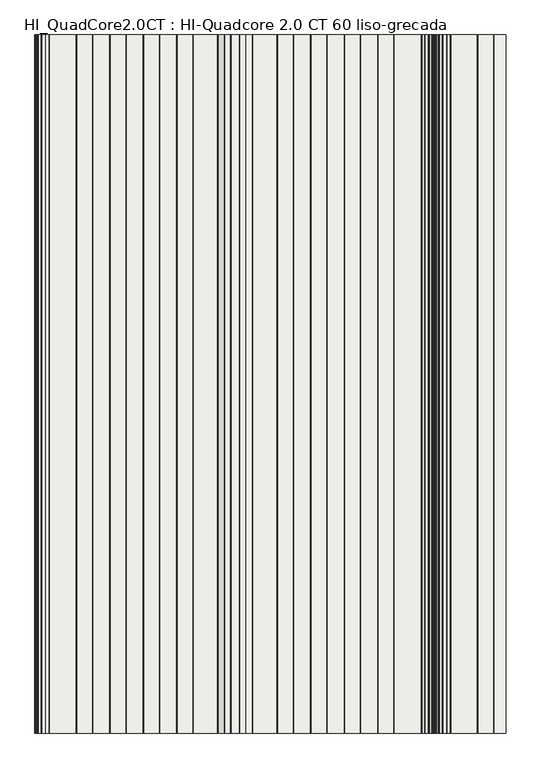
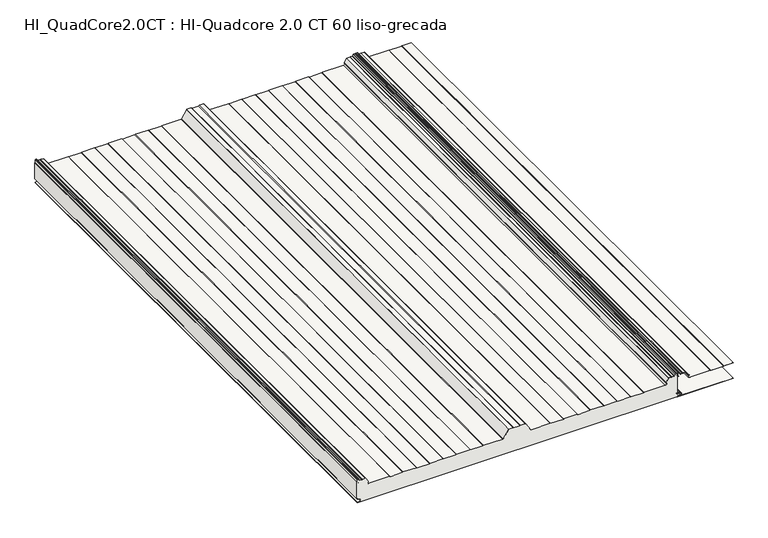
"""IFC4 building model written with IfcOpenShell, lengths in millimetres: slab geometry, HI_QuadCore2.0CT : HI-Quadcore 2.0 CT 60 liso-grecada."""

from ifc_helpers import new_model, si_unit, point, frame, frame_2d, origin, place, context, project, spatial, polyline, circle_curve, trimmed, segment, composite_curve, outline, extrude, source, transform, mapped, element, save
from ifc_brep_helpers import plane_surface, cylinder_surface, revolved_surface, advanced_brep


def hi_quadcore2_0ct_hi_quadcore_2_0_ct_60_liso_grecada_c3092838(model_context):
    return source(origin(), model_context, "Body", "SolidModel", [
        advanced_brep(
        [(1155.1475465, 0.0, 75.7425833), (1151.3824194, 0.0, 77.9163804), (1150.0, 0.0, 77.9163804), (1150.0, 0.0, 16.239302), (1157.510215, 0.0, 16.239302), (1157.510215, 0.0, 15.4391074), (1153.6125693, 0.0, 15.4391074), (1152.4319301, 0.0, 14.2584682), (1153.4276302, 0.0, 13.0866965), (1161.8278581, 0.0, 11.7547343), (1161.7995989, 0.0, 4.4809044), (1151.8467032, 0.0, 2.9844289), (1152.0100062, 0.0, 0.8), (2297.9590685, 0.0, 0.8), (2299.3391392, 0.0, 2.1800708), (2302.5664905, 0.0, 5.8294074), (2310.7843221, 0.0, 6.8264698), (2310.7843299, 0.0, 9.4135286), (2300.8450446, 0.0, 10.6192254), (2297.8324398, 0.0, 14.0237344), (2297.2282701, 0.0, 15.44), (2292.7624398, 0.0, 15.44), (2292.7624398, 0.0, 16.239302), (2300.0, 0.0, 16.239302), (2300.0, 0.0, 77.9163804), (2298.8824194, 0.0, 77.9163804), (2295.1172924, 0.0, 75.7425833), (2294.7172924, 0.0, 76.4354036), (2298.5824194, 0.0, 78.6669358), (2298.5824194, 0.0, 88.1), (2297.4824194, 0.0, 89.2), (2293.8888221, 0.0, 89.2), (2292.8725546, 0.0, 88.5209518), (2291.0157992, 0.0, 84.0383476), (2288.8631598, 0.0, 82.6), (2282.1371875, 0.0, 82.6), (2280.4324194, 0.0, 81.8110374), (2278.7276514, 0.0, 82.6), (2269.4004541, 0.0, 82.6), (2268.4939153, 0.0, 82.1230469), (2259.1558806, 0.0, 68.5361221), (2259.356723, 0.0, 67.0692788), (2260.3070878, 0.0, 66.2744554), (2257.4852773, 0.0, 59.2), (2181.3816122, 0.0, 59.2), (2179.6495614, 0.0, 58.2), (2134.6152775, 0.0, 58.2), (2132.8832267, 0.0, 59.2), (2085.3816122, 0.0, 59.2), (2083.6495614, 0.0, 58.2), (2038.6152775, 0.0, 58.2), (2036.8832267, 0.0, 59.2), (1989.3816122, 0.0, 59.2), (1987.6495614, 0.0, 58.2), (1942.6152775, 0.0, 58.2), (1940.8832267, 0.0, 59.2), (1893.3816122, 0.0, 59.2), (1891.6495614, 0.0, 58.2), (1846.6152775, 0.0, 58.2), (1844.8832267, 0.0, 59.2), (1775.9029123, 0.0, 59.2), (1773.9344839, 0.0, 60.2833287), (1755.9445057, 0.0, 88.6885573), (1755.0152048, 0.0, 89.2), (1738.8816122, 0.0, 89.2), (1736.283536, 0.0, 87.7), (1713.9813029, 0.0, 87.7), (1711.3832267, 0.0, 89.2), (1695.2496341, 0.0, 89.2), (1694.3203331, 0.0, 88.6885573), (1676.330355, 0.0, 60.2833287), (1674.3619266, 0.0, 59.2), (1605.3816122, 0.0, 59.2), (1603.6495614, 0.0, 58.2), (1558.6152775, 0.0, 58.2), (1556.8832267, 0.0, 59.2), (1509.3816122, 0.0, 59.2), (1507.6495614, 0.0, 58.2), (1462.6152775, 0.0, 58.2), (1460.8832267, 0.0, 59.2), (1413.3816122, 0.0, 59.2), (1411.6495614, 0.0, 58.2), (1366.6152775, 0.0, 58.2), (1364.8832267, 0.0, 59.2), (1317.3816122, 0.0, 59.2), (1315.6495614, 0.0, 58.2), (1270.6152775, 0.0, 58.2), (1268.8832267, 0.0, 59.2), (1192.7795617, 0.0, 59.2), (1189.9577511, 0.0, 66.2744555), (1190.9081159, 0.0, 67.0692788), (1191.1089583, 0.0, 68.5361221), (1181.7709236, 0.0, 82.1230469), (1180.8643848, 0.0, 82.6), (1171.5371875, 0.0, 82.6), (1169.8324194, 0.0, 81.8110374), (1168.1276514, 0.0, 82.6), (1161.4016791, 0.0, 82.6), (1159.2490397, 0.0, 84.0383476), (1157.3922843, 0.0, 88.5209518), (1156.3760168, 0.0, 89.2), (1152.7824194, 0.0, 89.2), (1151.6824194, 0.0, 88.1), (1151.6824194, 0.0, 78.6669358), (1155.5475465, 0.0, 76.4354036), (1155.1475465, 2000.0, 75.7425833), (1155.5475465, 2000.0, 76.4354036), (1151.6824194, 2000.0, 78.6669358), (1151.6824194, 2000.0, 88.1), (1152.7824194, 2000.0, 89.2), (1156.3760168, 2000.0, 89.2), (1157.3922843, 2000.0, 88.5209518), (1159.2490397, 2000.0, 84.0383476), (1161.4016791, 2000.0, 82.6), (1168.1276514, 2000.0, 82.6), (1169.8324194, 2000.0, 81.8110374), (1171.5371875, 2000.0, 82.6), (1180.8643848, 2000.0, 82.6), (1181.7709236, 2000.0, 82.1230469), (1191.1089583, 2000.0, 68.5361221), (1190.9081159, 2000.0, 67.0692788), (1189.9577511, 2000.0, 66.2744555), (1192.7795617, 2000.0, 59.2), (1268.8832267, 2000.0, 59.2), (1270.6152775, 2000.0, 58.2), (1315.6495614, 2000.0, 58.2), (1317.3816122, 2000.0, 59.2), (1364.8832267, 2000.0, 59.2), (1366.6152775, 2000.0, 58.2), (1411.6495614, 2000.0, 58.2), (1413.3816122, 2000.0, 59.2), (1460.8832267, 2000.0, 59.2), (1462.6152775, 2000.0, 58.2), (1507.6495614, 2000.0, 58.2), (1509.3816122, 2000.0, 59.2), (1556.8832267, 2000.0, 59.2), (1558.6152775, 2000.0, 58.2), (1603.6495614, 2000.0, 58.2), (1605.3816122, 2000.0, 59.2), (1674.3619266, 2000.0, 59.2), (1676.330355, 2000.0, 60.2833287), (1694.3203331, 2000.0, 88.6885573), (1695.2496341, 2000.0, 89.2), (1711.3832267, 2000.0, 89.2), (1713.9813029, 2000.0, 87.7), (1736.283536, 2000.0, 87.7), (1738.8816122, 2000.0, 89.2), (1755.0152048, 2000.0, 89.2), (1755.9445057, 2000.0, 88.6885573), (1773.9344839, 2000.0, 60.2833287), (1775.9029123, 2000.0, 59.2), (1844.8832267, 2000.0, 59.2), (1846.6152775, 2000.0, 58.2), (1891.6495614, 2000.0, 58.2), (1893.3816122, 2000.0, 59.2), (1940.8832267, 2000.0, 59.2), (1942.6152775, 2000.0, 58.2), (1987.6495614, 2000.0, 58.2), (1989.3816122, 2000.0, 59.2), (2036.8832267, 2000.0, 59.2), (2038.6152775, 2000.0, 58.2), (2083.6495614, 2000.0, 58.2), (2085.3816122, 2000.0, 59.2), (2132.8832267, 2000.0, 59.2), (2134.6152775, 2000.0, 58.2), (2179.6495614, 2000.0, 58.2), (2181.3816122, 2000.0, 59.2), (2257.4852773, 2000.0, 59.2), (2260.3070878, 2000.0, 66.2744554), (2259.356723, 2000.0, 67.0692788), (2259.1558806, 2000.0, 68.5361221), (2268.4939153, 2000.0, 82.1230469), (2269.4004541, 2000.0, 82.6), (2278.7276514, 2000.0, 82.6), (2280.4324194, 2000.0, 81.8110374), (2282.1371875, 2000.0, 82.6), (2288.8631598, 2000.0, 82.6), (2291.0157992, 2000.0, 84.0383476), (2292.8725546, 2000.0, 88.5209518), (2293.8888221, 2000.0, 89.2), (2297.4824194, 2000.0, 89.2), (2298.5824194, 2000.0, 88.1), (2298.5824194, 2000.0, 78.6669358), (2294.7172924, 2000.0, 76.4354036), (2295.1172924, 2000.0, 75.7425833), (2298.8824194, 2000.0, 77.9163804), (2300.0, 2000.0, 77.9163804), (2300.0, 2000.0, 16.239302), (2292.7624398, 2000.0, 16.239302), (2292.7624398, 2000.0, 15.44), (2297.2282701, 2000.0, 15.44), (2297.8324398, 2000.0, 14.0237344), (2300.8450446, 2000.0, 10.6192254), (2310.7843299, 2000.0, 9.4135286), (2310.7843221, 2000.0, 6.8264698), (2302.5664905, 2000.0, 5.8294074), (2299.3391392, 2000.0, 2.1800708), (2297.9590685, 2000.0, 0.8), (1152.0100062, 2000.0, 0.8), (1151.8467032, 2000.0, 2.9844289), (1161.7995989, 2000.0, 4.4809044), (1161.8278581, 2000.0, 11.7547343), (1153.4273037, 2000.0, 13.0846342), (1152.4319301, 2000.0, 14.2584682), (1153.6125693, 2000.0, 15.4391074), (1157.510215, 2000.0, 15.4391074), (1157.510215, 2000.0, 16.239302), (1150.0, 2000.0, 16.239302), (1150.0, 2000.0, 77.9163804), (1151.3824194, 2000.0, 77.9163804)],
        [
            (0, 1),
            (1, 2),
            (2, 3),
            (3, 4),
            (4, 5),
            (5, 6),
            (6, 7, circle_curve(frame((1153.6125693, 0.0, 14.2584682), z_axis=(0.0, -1.0, 0.0), x_axis=(1.0, 0.0, 0.0)), 1.1806391)),
            (7, 8, circle_curve(frame((1153.6121809, 0.0, 14.2524448), z_axis=(0.0, -1.0, 0.0), x_axis=(1.0, 0.0, 0.0)), 1.1802661)),
            (8, 9),
            (9, 10, circle_curve(frame((1161.2524398, 0.0, 8.12), z_axis=(0.0, 1.0, 0.0), x_axis=(1.0, 0.0, 0.0)), 3.68)),
            (10, 11),
            (11, 12, circle_curve(frame((1152.0100062, 0.0, 1.8983185), z_axis=(0.0, -1.0, 0.0), x_axis=(1.0, 0.0, 0.0)), 1.0983185)),
            (12, 13),
            (13, 14, circle_curve(frame((2297.9590685, 0.0, 2.1800708), z_axis=(0.0, -1.0, 0.0), x_axis=(1.0, 0.0, 0.0)), 1.3800708)),
            (14, 15, circle_curve(frame((2303.0160638, 0.0, 2.1800708), z_axis=(0.0, 1.0, 0.0), x_axis=(1.0, 0.0, 0.0)), 3.6769246)),
            (15, 16),
            (16, 17, circle_curve(frame((2310.5224398, 0.0, 8.12), z_axis=(0.0, -1.0, 0.0), x_axis=(1.0, 0.0, 0.0)), 1.3197737)),
            (17, 18),
            (18, 19, circle_curve(frame((2301.2624398, 0.0, 14.0237344), z_axis=(0.0, 1.0, 0.0), x_axis=(1.0, 0.0, 0.0)), 3.43)),
            (19, 20, circle_curve(frame((2295.8703839, 0.0, 14.0237344), z_axis=(0.0, -1.0, 0.0), x_axis=(1.0, 0.0, 0.0)), 1.9620559)),
            (20, 21),
            (21, 22),
            (22, 23),
            (23, 24),
            (24, 25),
            (25, 26),
            (26, 27),
            (27, 28),
            (28, 29),
            (29, 30, circle_curve(frame((2297.4824194, 0.0, 88.1), z_axis=(0.0, -1.0, 0.0), x_axis=(1.0, 0.0, 0.0)), 1.1)),
            (30, 31),
            (31, 32, circle_curve(frame((2293.8888221, 0.0, 88.1), z_axis=(0.0, -1.0, 0.0), x_axis=(1.0, 0.0, 0.0)), 1.1)),
            (32, 33),
            (33, 34, circle_curve(frame((2288.8631598, 0.0, 84.93), z_axis=(0.0, 1.0, 0.0), x_axis=(1.0, 0.0, 0.0)), 2.33)),
            (34, 35),
            (35, 36),
            (36, 37),
            (37, 38),
            (38, 39, circle_curve(frame((2269.4004541, 0.0, 81.5), z_axis=(0.0, -1.0, 0.0), x_axis=(1.0, 0.0, 0.0)), 1.1)),
            (39, 40),
            (40, 41, circle_curve(frame((2260.0624194, 0.0, 67.9130753), z_axis=(0.0, -1.0, 0.0), x_axis=(1.0, 0.0, 0.0)), 1.1)),
            (41, 42),
            (42, 43, circle_curve(frame((2257.4852773, 0.0, 63.3), z_axis=(0.0, 1.0, 0.0), x_axis=(1.0, 0.0, 0.0)), 4.1)),
            (43, 44),
            (44, 45),
            (45, 46),
            (46, 47),
            (47, 48),
            (48, 49),
            (49, 50),
            (50, 51),
            (51, 52),
            (52, 53),
            (53, 54),
            (54, 55),
            (55, 56),
            (56, 57),
            (57, 58),
            (58, 59),
            (59, 60),
            (60, 61, circle_curve(frame((1775.9029123, 0.0, 61.53), z_axis=(0.0, 1.0, 0.0), x_axis=(1.0, 0.0, 0.0)), 2.33)),
            (61, 62),
            (62, 63, circle_curve(frame((1755.0152048, 0.0, 88.1), z_axis=(0.0, -1.0, 0.0), x_axis=(1.0, 0.0, 0.0)), 1.1)),
            (63, 64),
            (64, 65),
            (65, 66),
            (66, 67),
            (67, 68),
            (68, 69, circle_curve(frame((1695.2496341, 0.0, 88.1), z_axis=(0.0, -1.0, 0.0), x_axis=(1.0, 0.0, 0.0)), 1.1)),
            (69, 70),
            (70, 71, circle_curve(frame((1674.3619266, 0.0, 61.53), z_axis=(0.0, 1.0, 0.0), x_axis=(1.0, 0.0, 0.0)), 2.33)),
            (71, 72),
            (72, 73),
            (73, 74),
            (74, 75),
            (75, 76),
            (76, 77),
            (77, 78),
            (78, 79),
            (79, 80),
            (80, 81),
            (81, 82),
            (82, 83),
            (83, 84),
            (84, 85),
            (85, 86),
            (86, 87),
            (87, 88),
            (88, 89, circle_curve(frame((1192.7795617, 0.0, 63.3), z_axis=(0.0, 1.0, 0.0), x_axis=(1.0, 0.0, 0.0)), 4.1)),
            (89, 90),
            (90, 91, circle_curve(frame((1190.2024195, 0.0, 67.9130752), z_axis=(0.0, -1.0, 0.0), x_axis=(1.0, 0.0, 0.0)), 1.1)),
            (91, 92),
            (92, 93, circle_curve(frame((1180.8643848, 0.0, 81.5), z_axis=(0.0, -1.0, 0.0), x_axis=(1.0, 0.0, 0.0)), 1.1)),
            (93, 94),
            (94, 95),
            (95, 96),
            (96, 97),
            (97, 98, circle_curve(frame((1161.4016791, 0.0, 84.93), z_axis=(0.0, 1.0, 0.0), x_axis=(1.0, 0.0, 0.0)), 2.33)),
            (98, 99),
            (99, 100, circle_curve(frame((1156.3760168, 0.0, 88.1), z_axis=(0.0, -1.0, 0.0), x_axis=(1.0, 0.0, 0.0)), 1.1)),
            (100, 101),
            (101, 102, circle_curve(frame((1152.7824194, 0.0, 88.1), z_axis=(0.0, -1.0, 0.0), x_axis=(1.0, 0.0, 0.0)), 1.1)),
            (102, 103),
            (103, 104),
            (104, 0),
            (105, 106),
            (106, 107),
            (107, 108),
            (108, 109, circle_curve(frame((1152.7824194, 2000.0, 88.1), z_axis=(0.0, 1.0, 0.0), x_axis=(1.0, 0.0, 0.0)), 1.1)),
            (109, 110),
            (110, 111, circle_curve(frame((1156.3760168, 2000.0, 88.1), z_axis=(0.0, 1.0, 0.0), x_axis=(1.0, 0.0, 0.0)), 1.1)),
            (111, 112),
            (112, 113, circle_curve(frame((1161.4016791, 2000.0, 84.93), z_axis=(0.0, -1.0, 0.0), x_axis=(1.0, 0.0, 0.0)), 2.33)),
            (113, 114),
            (114, 115),
            (115, 116),
            (116, 117),
            (117, 118, circle_curve(frame((1180.8643848, 2000.0, 81.5), z_axis=(0.0, 1.0, 0.0), x_axis=(1.0, 0.0, 0.0)), 1.1)),
            (118, 119),
            (119, 120, circle_curve(frame((1190.2024195, 2000.0, 67.9130752), z_axis=(0.0, 1.0, 0.0), x_axis=(1.0, 0.0, 0.0)), 1.1)),
            (120, 121),
            (121, 122, circle_curve(frame((1192.7795617, 2000.0, 63.3), z_axis=(0.0, -1.0, 0.0), x_axis=(1.0, 0.0, 0.0)), 4.1)),
            (122, 123),
            (123, 124),
            (124, 125),
            (125, 126),
            (126, 127),
            (127, 128),
            (128, 129),
            (129, 130),
            (130, 131),
            (131, 132),
            (132, 133),
            (133, 134),
            (134, 135),
            (135, 136),
            (136, 137),
            (137, 138),
            (138, 139),
            (139, 140, circle_curve(frame((1674.3619266, 2000.0, 61.53), z_axis=(0.0, -1.0, 0.0), x_axis=(1.0, 0.0, 0.0)), 2.33)),
            (140, 141),
            (141, 142, circle_curve(frame((1695.2496341, 2000.0, 88.1), z_axis=(0.0, 1.0, 0.0), x_axis=(1.0, 0.0, 0.0)), 1.1)),
            (142, 143),
            (143, 144),
            (144, 145),
            (145, 146),
            (146, 147),
            (147, 148, circle_curve(frame((1755.0152048, 2000.0, 88.1), z_axis=(0.0, 1.0, 0.0), x_axis=(1.0, 0.0, 0.0)), 1.1)),
            (148, 149),
            (149, 150, circle_curve(frame((1775.9029123, 2000.0, 61.53), z_axis=(0.0, -1.0, 0.0), x_axis=(1.0, 0.0, 0.0)), 2.33)),
            (150, 151),
            (151, 152),
            (152, 153),
            (153, 154),
            (154, 155),
            (155, 156),
            (156, 157),
            (157, 158),
            (158, 159),
            (159, 160),
            (160, 161),
            (161, 162),
            (162, 163),
            (163, 164),
            (164, 165),
            (165, 166),
            (166, 167),
            (167, 168, circle_curve(frame((2257.4852773, 2000.0, 63.3), z_axis=(0.0, -1.0, 0.0), x_axis=(1.0, 0.0, 0.0)), 4.1)),
            (168, 169),
            (169, 170, circle_curve(frame((2260.0624194, 2000.0, 67.9130753), z_axis=(0.0, 1.0, 0.0), x_axis=(1.0, 0.0, 0.0)), 1.1)),
            (170, 171),
            (171, 172, circle_curve(frame((2269.4004541, 2000.0, 81.5), z_axis=(0.0, 1.0, 0.0), x_axis=(1.0, 0.0, 0.0)), 1.1)),
            (172, 173),
            (173, 174),
            (174, 175),
            (175, 176),
            (176, 177, circle_curve(frame((2288.8631598, 2000.0, 84.93), z_axis=(0.0, -1.0, 0.0), x_axis=(1.0, 0.0, 0.0)), 2.33)),
            (177, 178),
            (178, 179, circle_curve(frame((2293.8888221, 2000.0, 88.1), z_axis=(0.0, 1.0, 0.0), x_axis=(1.0, 0.0, 0.0)), 1.1)),
            (179, 180),
            (180, 181, circle_curve(frame((2297.4824194, 2000.0, 88.1), z_axis=(0.0, 1.0, 0.0), x_axis=(1.0, 0.0, 0.0)), 1.1)),
            (181, 182),
            (182, 183),
            (183, 184),
            (184, 185),
            (185, 186),
            (186, 187),
            (187, 188),
            (188, 189),
            (189, 190),
            (190, 191, circle_curve(frame((2295.8703839, 2000.0, 14.0237344), z_axis=(0.0, 1.0, 0.0), x_axis=(1.0, 0.0, 0.0)), 1.9620559)),
            (191, 192, circle_curve(frame((2301.2624398, 2000.0, 14.0237344), z_axis=(0.0, -1.0, 0.0), x_axis=(1.0, 0.0, 0.0)), 3.43)),
            (192, 193),
            (193, 194, circle_curve(frame((2310.5224398, 2000.0, 8.12), z_axis=(0.0, 1.0, 0.0), x_axis=(1.0, 0.0, 0.0)), 1.3197737)),
            (194, 195),
            (195, 196, circle_curve(frame((2303.0160638, 2000.0, 2.1800708), z_axis=(0.0, -1.0, 0.0), x_axis=(1.0, 0.0, 0.0)), 3.6769246)),
            (196, 197, circle_curve(frame((2297.9590685, 2000.0, 2.1800708), z_axis=(0.0, 1.0, 0.0), x_axis=(1.0, 0.0, 0.0)), 1.3800708)),
            (197, 198),
            (198, 199, circle_curve(frame((1152.0100062, 2000.0, 1.8983185), z_axis=(0.0, 1.0, 0.0), x_axis=(1.0, 0.0, 0.0)), 1.0983185)),
            (199, 200),
            (200, 201, circle_curve(frame((1161.2524398, 2000.0, 8.12), z_axis=(0.0, -1.0, 0.0), x_axis=(1.0, 0.0, 0.0)), 3.68)),
            (201, 202),
            (202, 203, circle_curve(frame((1153.6121809, 2000.0, 14.2524448), z_axis=(0.0, 1.0, 0.0), x_axis=(1.0, 0.0, 0.0)), 1.1802661)),
            (203, 204, circle_curve(frame((1153.6125693, 2000.0, 14.2584682), z_axis=(0.0, 1.0, 0.0), x_axis=(1.0, 0.0, 0.0)), 1.1806391)),
            (204, 205),
            (205, 206),
            (206, 207),
            (207, 208),
            (208, 209),
            (209, 105),
            (0, 105),
            (209, 1),
            (208, 2),
            (207, 3),
            (186, 24),
            (23, 187),
            (185, 25),
            (184, 26),
            (183, 27),
            (182, 28),
            (181, 29),
            (180, 30),
            (179, 31),
            (178, 32),
            (177, 33),
            (176, 34),
            (175, 35),
            (174, 36),
            (173, 37),
            (172, 38),
            (171, 39),
            (170, 40),
            (169, 41),
            (168, 42),
            (167, 43),
            (166, 44),
            (165, 45),
            (164, 46),
            (163, 47),
            (162, 48),
            (161, 49),
            (160, 50),
            (159, 51),
            (158, 52),
            (157, 53),
            (156, 54),
            (155, 55),
            (154, 56),
            (153, 57),
            (152, 58),
            (151, 59),
            (150, 60),
            (149, 61),
            (148, 62),
            (147, 63),
            (146, 64),
            (145, 65),
            (144, 66),
            (143, 67),
            (142, 68),
            (141, 69),
            (140, 70),
            (139, 71),
            (138, 72),
            (137, 73),
            (136, 74),
            (135, 75),
            (134, 76),
            (133, 77),
            (132, 78),
            (131, 79),
            (130, 80),
            (129, 81),
            (128, 82),
            (127, 83),
            (126, 84),
            (125, 85),
            (124, 86),
            (123, 87),
            (122, 88),
            (121, 89),
            (120, 90),
            (119, 91),
            (118, 92),
            (117, 93),
            (116, 94),
            (115, 95),
            (114, 96),
            (113, 97),
            (112, 98),
            (111, 99),
            (110, 100),
            (109, 101),
            (108, 102),
            (107, 103),
            (106, 104),
            (22, 188),
            (206, 4),
            (205, 5),
            (204, 6),
            (203, 7),
            (202, 8),
            (201, 9),
            (200, 10),
            (199, 11),
            (198, 12),
            (197, 13),
            (196, 14),
            (195, 15),
            (194, 16),
            (193, 17),
            (192, 18),
            (191, 19),
            (190, 20),
            (189, 21),
        ],
        [
            plane_surface(frame((1151.3824194, 0.0, 77.9163804), z_axis=(0.0, -1.0, 0.0), x_axis=(-0.866025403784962, 0.0, 0.4999999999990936))),
            plane_surface(frame((1151.3824194, 2000.0, 77.9163804), z_axis=(0.0, 1.0, 0.0), x_axis=(0.866025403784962, 0.0, -0.4999999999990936))),
            plane_surface(frame((1155.1475465, 0.0, 75.7425833), z_axis=(0.4999999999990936, 0.0, 0.866025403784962), x_axis=(0.0, 1.0, 0.0))),
            plane_surface(frame((1151.3824194, 0.0, 77.9163804), z_axis=(0.0, 0.0, 1.0), x_axis=(0.0, 1.0, 0.0))),
            plane_surface(frame((1150.0, 0.0, 77.9163804), z_axis=(-1.0, 0.0, 0.0), x_axis=(0.0, 1.0, 0.0))),
            plane_surface(frame((2300.0, 0.0, 50.0), z_axis=(1.0, 0.0, 0.0), x_axis=(0.0, 1.0, 0.0))),
            plane_surface(frame((2300.0, 0.0, 77.9163804), z_axis=(0.0, 0.0, 1.0), x_axis=(0.0, 1.0, 0.0))),
            plane_surface(frame((2298.8824194, 0.0, 77.9163804), z_axis=(-0.4999999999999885, 0.0, 0.8660254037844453), x_axis=(0.0, 1.0, 0.0))),
            plane_surface(frame((2295.1172924, 0.0, 75.7425833), z_axis=(0.8660254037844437, 0.0, 0.49999999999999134), x_axis=(0.0, 1.0, 0.0))),
            plane_surface(frame((2294.7172924, 0.0, 76.4354036), z_axis=(0.4999999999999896, 0.0, -0.8660254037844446), x_axis=(0.0, 1.0, 0.0))),
            plane_surface(frame((2298.5824194, 0.0, 78.6669358), z_axis=(1.0, 0.0, 0.0), x_axis=(0.0, 1.0, 0.0))),
            cylinder_surface(frame((2297.4824194, 2000.0, 88.1), z_axis=(0.0, -1.0, 0.0), x_axis=(1.0, 0.0, 0.0)), 1.1),
            plane_surface(frame((2297.4824194, 0.0, 89.2), z_axis=(0.0, 0.0, 1.0), x_axis=(0.0, 1.0, 0.0))),
            cylinder_surface(frame((2293.8888221, 2000.0, 88.1), z_axis=(0.0, -1.0, 0.0), x_axis=(1.0, 0.0, 0.0)), 1.1),
            plane_surface(frame((2292.8725546, 0.0, 88.5209518), z_axis=(-0.9238795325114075, 0.0, 0.3826834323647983), x_axis=(0.0, 1.0, 0.0))),
            revolved_surface(polyline([(2291.1931598, 2000.0, 84.93), (2291.1931598, 0.0, 84.93)]), (2288.8631598, 2000.0, 84.93), (0.0, 1.0, 0.0)),
            plane_surface(frame((2288.8631598, 0.0, 82.6), z_axis=(0.0, 0.0, 1.0), x_axis=(0.0, 1.0, 0.0))),
            plane_surface(frame((2282.1371875, 0.0, 82.6), z_axis=(-0.4199999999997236, 0.0, 0.9075241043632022), x_axis=(0.0, 1.0, 0.0))),
            plane_surface(frame((2280.4324194, 0.0, 81.8110374), z_axis=(0.42000000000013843, 0.0, 0.9075241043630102), x_axis=(0.0, 1.0, 0.0))),
            plane_surface(frame((2278.7276514, 0.0, 82.6), z_axis=(0.0, 0.0, 1.0), x_axis=(0.0, 1.0, 0.0))),
            cylinder_surface(frame((2269.4004541, 2000.0, 81.5), z_axis=(0.0, -1.0, 0.0), x_axis=(1.0, 0.0, 0.0)), 1.1),
            plane_surface(frame((2268.4939153, 0.0, 82.1230469), z_axis=(-0.824126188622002, 0.0, 0.5664062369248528), x_axis=(0.0, 1.0, 0.0))),
            cylinder_surface(frame((2260.0624194, 2000.0, 67.9130753), z_axis=(0.0, -1.0, 0.0), x_axis=(1.0, 0.0, 0.0)), 1.1),
            plane_surface(frame((2259.356723, 0.0, 67.0692788), z_axis=(-0.6415422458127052, 0.0, -0.7670877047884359), x_axis=(0.0, 1.0, 0.0))),
            revolved_surface(polyline([(2261.5852772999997, 2000.0, 63.3), (2261.5852772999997, 0.0, 63.3)]), (2257.4852773, 2000.0, 63.3), (0.0, 1.0, 0.0)),
            plane_surface(frame((2257.4852773, 0.0, 59.2), z_axis=(0.0, 0.0, 1.0), x_axis=(0.0, 1.0, 0.0))),
            plane_surface(frame((2181.3816122, 0.0, 59.2), z_axis=(-0.4999999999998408, 0.0, 0.8660254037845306), x_axis=(0.0, 1.0, 0.0))),
            plane_surface(frame((2179.6495614, 0.0, 58.2), z_axis=(0.0, 0.0, 1.0), x_axis=(0.0, 1.0, 0.0))),
            plane_surface(frame((2134.6152775, 0.0, 58.2), z_axis=(0.4999999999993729, 0.0, 0.8660254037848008), x_axis=(0.0, 1.0, 0.0))),
            plane_surface(frame((2132.8832267, 0.0, 59.2), z_axis=(0.0, 0.0, 1.0), x_axis=(0.0, 1.0, 0.0))),
            plane_surface(frame((2085.3816122, 0.0, 59.2), z_axis=(-0.49999999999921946, 0.0, 0.8660254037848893), x_axis=(0.0, 1.0, 0.0))),
            plane_surface(frame((2083.6495614, 0.0, 58.2), z_axis=(0.0, 0.0, 1.0), x_axis=(0.0, 1.0, 0.0))),
            plane_surface(frame((2038.6152775, 0.0, 58.2), z_axis=(0.4999999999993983, 0.0, 0.8660254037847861), x_axis=(0.0, 1.0, 0.0))),
            plane_surface(frame((2036.8832267, 0.0, 59.2), z_axis=(0.0, 0.0, 1.0), x_axis=(0.0, 1.0, 0.0))),
            plane_surface(frame((1989.3816122, 0.0, 59.2), z_axis=(-0.49999999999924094, 0.0, 0.866025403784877), x_axis=(0.0, 1.0, 0.0))),
            plane_surface(frame((1987.6495614, 0.0, 58.2), z_axis=(0.0, 0.0, 1.0), x_axis=(0.0, 1.0, 0.0))),
            plane_surface(frame((1942.6152775, 0.0, 58.2), z_axis=(0.49999999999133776, 0.0, 0.8660254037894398), x_axis=(0.0, 1.0, 0.0))),
            plane_surface(frame((1940.8832267, 0.0, 59.2), z_axis=(0.0, 0.0, 1.0), x_axis=(0.0, 1.0, 0.0))),
            plane_surface(frame((1893.3816122, 0.0, 59.2), z_axis=(-0.500000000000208, 0.0, 0.8660254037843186), x_axis=(0.0, 1.0, 0.0))),
            plane_surface(frame((1891.6495614, 0.0, 58.2), z_axis=(0.0, 0.0, 1.0), x_axis=(0.0, 1.0, 0.0))),
            plane_surface(frame((1846.6152775, 0.0, 58.2), z_axis=(0.5000000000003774, 0.0, 0.8660254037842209), x_axis=(0.0, 1.0, 0.0))),
            plane_surface(frame((1844.8832267, 0.0, 59.2), z_axis=(0.0, 0.0, 1.0), x_axis=(0.0, 1.0, 0.0))),
            revolved_surface(polyline([(1778.2329123, 2000.0, 61.53), (1778.2329123, 0.0, 61.53)]), (1775.9029123, 2000.0, 61.53), (0.0, 1.0, 0.0)),
            plane_surface(frame((1773.9344839, 0.0, 60.2833287), z_axis=(0.8448190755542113, 0.0, 0.535052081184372), x_axis=(0.0, 1.0, 0.0))),
            cylinder_surface(frame((1755.0152048, 2000.0, 88.1), z_axis=(0.0, -1.0, 0.0), x_axis=(1.0, 0.0, 0.0)), 1.1),
            plane_surface(frame((1755.0152048, 0.0, 89.2), z_axis=(0.0, 0.0, 1.0), x_axis=(0.0, 1.0, 0.0))),
            plane_surface(frame((1738.8816122, 0.0, 89.2), z_axis=(-0.4999999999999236, 0.0, 0.8660254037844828), x_axis=(0.0, 1.0, 0.0))),
            plane_surface(frame((1736.283536, 0.0, 87.7), z_axis=(0.0, 0.0, 1.0), x_axis=(0.0, 1.0, 0.0))),
            plane_surface(frame((1713.9813029, 0.0, 87.7), z_axis=(0.5000000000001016, 0.0, 0.86602540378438), x_axis=(0.0, 1.0, 0.0))),
            plane_surface(frame((1711.3832267, 0.0, 89.2), z_axis=(0.0, 0.0, 1.0), x_axis=(0.0, 1.0, 0.0))),
            cylinder_surface(frame((1695.2496341, 2000.0, 88.1), z_axis=(0.0, -1.0, 0.0), x_axis=(1.0, 0.0, 0.0)), 1.1),
            plane_surface(frame((1694.3203331, 0.0, 88.6885573), z_axis=(-0.8448190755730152, 0.0, 0.5350520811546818), x_axis=(0.0, 1.0, 0.0))),
            revolved_surface(polyline([(1676.6919266, 2000.0, 61.53), (1676.6919266, 0.0, 61.53)]), (1674.3619266, 2000.0, 61.53), (0.0, 1.0, 0.0)),
            plane_surface(frame((1674.3619266, 0.0, 59.2), z_axis=(0.0, 0.0, 1.0), x_axis=(0.0, 1.0, 0.0))),
            plane_surface(frame((1605.3816122, 0.0, 59.2), z_axis=(-0.5000000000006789, 0.0, 0.8660254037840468), x_axis=(0.0, 1.0, 0.0))),
            plane_surface(frame((1603.6495614, 0.0, 58.2), z_axis=(0.0, 0.0, 1.0), x_axis=(0.0, 1.0, 0.0))),
            plane_surface(frame((1558.6152775, 0.0, 58.2), z_axis=(0.4999999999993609, 0.0, 0.8660254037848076), x_axis=(0.0, 1.0, 0.0))),
            plane_surface(frame((1556.8832267, 0.0, 59.2), z_axis=(0.0, 0.0, 1.0), x_axis=(0.0, 1.0, 0.0))),
            plane_surface(frame((1509.3816122, 0.0, 59.2), z_axis=(-0.5000000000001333, 0.0, 0.8660254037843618), x_axis=(0.0, 1.0, 0.0))),
            plane_surface(frame((1507.6495614, 0.0, 58.2), z_axis=(0.0, 0.0, 1.0), x_axis=(0.0, 1.0, 0.0))),
            plane_surface(frame((1462.6152775, 0.0, 58.2), z_axis=(0.499999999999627, 0.0, 0.8660254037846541), x_axis=(0.0, 1.0, 0.0))),
            plane_surface(frame((1460.8832267, 0.0, 59.2), z_axis=(0.0, 0.0, 1.0), x_axis=(0.0, 1.0, 0.0))),
            plane_surface(frame((1413.3816122, 0.0, 59.2), z_axis=(-0.4999999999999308, 0.0, 0.8660254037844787), x_axis=(0.0, 1.0, 0.0))),
            plane_surface(frame((1411.6495614, 0.0, 58.2), z_axis=(0.0, 0.0, 1.0), x_axis=(0.0, 1.0, 0.0))),
            plane_surface(frame((1366.6152775, 0.0, 58.2), z_axis=(0.5000000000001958, 0.0, 0.8660254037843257), x_axis=(0.0, 1.0, 0.0))),
            plane_surface(frame((1364.8832267, 0.0, 59.2), z_axis=(0.0, 0.0, 1.0), x_axis=(0.0, 1.0, 0.0))),
            plane_surface(frame((1317.3816122, 0.0, 59.2), z_axis=(-0.5000000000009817, 0.0, 0.8660254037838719), x_axis=(0.0, 1.0, 0.0))),
            plane_surface(frame((1315.6495614, 0.0, 58.2), z_axis=(0.0, 0.0, 1.0), x_axis=(0.0, 1.0, 0.0))),
            plane_surface(frame((1270.6152775, 0.0, 58.2), z_axis=(0.4999999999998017, 0.0, 0.8660254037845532), x_axis=(0.0, 1.0, 0.0))),
            plane_surface(frame((1268.8832267, 0.0, 59.2), z_axis=(0.0, 0.0, 1.0), x_axis=(0.0, 1.0, 0.0))),
            revolved_surface(polyline([(1196.8795616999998, 2000.0, 63.3), (1196.8795616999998, 0.0, 63.3)]), (1192.7795617, 2000.0, 63.3), (0.0, 1.0, 0.0)),
            plane_surface(frame((1189.9577511, 0.0, 66.2744555), z_axis=(0.6415422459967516, 0.0, -0.7670877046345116), x_axis=(0.0, 1.0, 0.0))),
            cylinder_surface(frame((1190.2024195, 2000.0, 67.9130752), z_axis=(0.0, -1.0, 0.0), x_axis=(1.0, 0.0, 0.0)), 1.1),
            plane_surface(frame((1191.1089583, 0.0, 68.5361221), z_axis=(0.8241261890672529, 0.0, 0.5664062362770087), x_axis=(0.0, 1.0, 0.0))),
            cylinder_surface(frame((1180.8643848, 2000.0, 81.5), z_axis=(0.0, -1.0, 0.0), x_axis=(1.0, 0.0, 0.0)), 1.1),
            plane_surface(frame((1180.8643848, 0.0, 82.6), z_axis=(0.0, 0.0, 1.0), x_axis=(0.0, 1.0, 0.0))),
            plane_surface(frame((1171.5371875, 0.0, 82.6), z_axis=(-0.41999999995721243, 0.0, 0.9075241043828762), x_axis=(0.0, 1.0, 0.0))),
            plane_surface(frame((1169.8324194, 0.0, 81.8110374), z_axis=(0.4200000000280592, 0.0, 0.9075241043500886), x_axis=(0.0, 1.0, 0.0))),
            plane_surface(frame((1168.1276514, 0.0, 82.6), z_axis=(0.0, 0.0, 1.0), x_axis=(0.0, 1.0, 0.0))),
            revolved_surface(polyline([(1163.7316790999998, 2000.0, 84.93), (1163.7316790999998, 0.0, 84.93)]), (1161.4016791, 2000.0, 84.93), (0.0, 1.0, 0.0)),
            plane_surface(frame((1159.2490397, 0.0, 84.0383476), z_axis=(0.923879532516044, 0.0, 0.38268343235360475), x_axis=(0.0, 1.0, 0.0))),
            cylinder_surface(frame((1156.3760168, 2000.0, 88.1), z_axis=(0.0, -1.0, 0.0), x_axis=(1.0, 0.0, 0.0)), 1.1),
            plane_surface(frame((1156.3760168, 0.0, 89.2), z_axis=(0.0, 0.0, 1.0), x_axis=(0.0, 1.0, 0.0))),
            cylinder_surface(frame((1152.7824194, 2000.0, 88.1), z_axis=(0.0, -1.0, 0.0), x_axis=(1.0, 0.0, 0.0)), 1.1),
            plane_surface(frame((1151.6824194, 0.0, 88.1), z_axis=(-1.0, 0.0, 0.0), x_axis=(0.0, 1.0, 0.0))),
            plane_surface(frame((1151.6824194, 0.0, 78.6669358), z_axis=(-0.49999999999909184, 0.0, -0.866025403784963), x_axis=(0.0, 1.0, 0.0))),
            plane_surface(frame((1155.5475465, 0.0, 76.4354036), z_axis=(-0.866025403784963, 0.0, 0.4999999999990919), x_axis=(0.0, 1.0, 0.0))),
            plane_surface(frame((1150.0, 0.0, 16.239302), z_axis=(0.0, 0.0, -1.0), x_axis=(0.0, 1.0, 0.0))),
            plane_surface(frame((1157.510215, 0.0, 16.239302), z_axis=(-1.0, 0.0, 0.0), x_axis=(0.0, 1.0, 0.0))),
            plane_surface(frame((1157.510215, 0.0, 15.4391074), z_axis=(0.0, 0.0, 1.0), x_axis=(0.0, 1.0, 0.0))),
            cylinder_surface(frame((1153.6125693, 2000.0, 14.2584682), z_axis=(0.0, -1.0, 0.0), x_axis=(1.0, 0.0, 0.0)), 1.1806391),
            cylinder_surface(frame((1153.6121809, 2000.0, 14.2524448), z_axis=(0.0, -1.0, 0.0), x_axis=(1.0, 0.0, 0.0)), 1.1802661),
            plane_surface(frame((1153.4273037, 0.0, 13.0846342), z_axis=(-0.1563636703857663, 0.0, -0.9876995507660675), x_axis=(0.0, 1.0, 0.0))),
            revolved_surface(polyline([(1164.9324398, 2000.0, 8.12), (1164.9324398, 0.0, 8.12)]), (1161.2524398, 2000.0, 8.12), (0.0, 1.0, 0.0)),
            plane_surface(frame((1161.7995989, 0.0, 4.4809044), z_axis=(-0.14868453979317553, 0.0, 0.9888846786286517), x_axis=(0.0, 1.0, 0.0))),
            cylinder_surface(frame((1152.0100062, 2000.0, 1.8983185), z_axis=(0.0, -1.0, 0.0), x_axis=(1.0, 0.0, 0.0)), 1.0983185),
            plane_surface(frame((1152.0100062, 0.0, 0.8), z_axis=(0.0, 0.0, -1.0), x_axis=(0.0, 1.0, 0.0))),
            cylinder_surface(frame((2297.9590685, 2000.0, 2.1800708), z_axis=(0.0, -1.0, 0.0), x_axis=(1.0, 0.0, 0.0)), 1.3800708),
            revolved_surface(polyline([(2306.6929884, 2000.0, 2.1800708), (2306.6929884, 0.0, 2.1800708)]), (2303.0160638, 2000.0, 2.1800708), (0.0, 1.0, 0.0)),
            plane_surface(frame((2302.5664905, 0.0, 5.8294074), z_axis=(0.12044584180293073, 0.0, -0.9927198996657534), x_axis=(0.0, 1.0, 0.0))),
            cylinder_surface(frame((2310.5224398, 2000.0, 8.12), z_axis=(0.0, -1.0, 0.0), x_axis=(1.0, 0.0, 0.0)), 1.3197737),
            plane_surface(frame((2310.7843299, 0.0, 9.4135286), z_axis=(0.12042339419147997, 0.0, 0.9927226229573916), x_axis=(0.0, 1.0, 0.0))),
            revolved_surface(polyline([(2304.6924397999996, 2000.0, 14.0237344), (2304.6924397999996, 0.0, 14.0237344)]), (2301.2624398, 2000.0, 14.0237344), (0.0, 1.0, 0.0)),
            cylinder_surface(frame((2295.8703839, 2000.0, 14.0237344), z_axis=(0.0, -1.0, 0.0), x_axis=(1.0, 0.0, 0.0)), 1.9620559),
            plane_surface(frame((2297.2282701, 0.0, 15.44), z_axis=(0.0, 0.0, 1.0), x_axis=(0.0, 1.0, 0.0))),
            plane_surface(frame((2292.7624398, 0.0, 15.44), z_axis=(1.0, 0.0, 0.0), x_axis=(0.0, 1.0, 0.0))),
        ],
        [
            (0, [[1, 2, 3, 4, 5, 6, 7, 8, 9, 10, 11, 12, 13, 14, 15, 16, 17, 18, 19, 20, 21, 22, 23, 24, 25, 26, 27, 28, 29, 30, 31, 32, 33, 34, 35, 36, 37, 38, 39, 40, 41, 42, 43, 44, 45, 46, 47, 48, 49, 50, 51, 52, 53, 54, 55, 56, 57, 58, 59, 60, 61, 62, 63, 64, 65, 66, 67, 68, 69, 70, 71, 72, 73, 74, 75, 76, 77, 78, 79, 80, 81, 82, 83, 84, 85, 86, 87, 88, 89, 90, 91, 92, 93, 94, 95, 96, 97, 98, 99, 100, 101, 102, 103, 104, 105]]),
            (1, [[106, 107, 108, 109, 110, 111, 112, 113, 114, 115, 116, 117, 118, 119, 120, 121, 122, 123, 124, 125, 126, 127, 128, 129, 130, 131, 132, 133, 134, 135, 136, 137, 138, 139, 140, 141, 142, 143, 144, 145, 146, 147, 148, 149, 150, 151, 152, 153, 154, 155, 156, 157, 158, 159, 160, 161, 162, 163, 164, 165, 166, 167, 168, 169, 170, 171, 172, 173, 174, 175, 176, 177, 178, 179, 180, 181, 182, 183, 184, 185, 186, 187, 188, 189, 190, 191, 192, 193, 194, 195, 196, 197, 198, 199, 200, 201, 202, 203, 204, 205, 206, 207, 208, 209, 210]]),
            (2, [[-1, 211, -210, 212]]),
            (3, [[-2, -212, -209, 213]]),
            (4, [[-213, -208, 214, -3]]),
            (5, [[215, -24, 216, -187]]),
            (6, [[-25, -215, -186, 217]]),
            (7, [[-26, -217, -185, 218]]),
            (8, [[-27, -218, -184, 219]]),
            (9, [[-28, -219, -183, 220]]),
            (10, [[-29, -220, -182, 221]]),
            (11, [[-30, -221, -181, 222]]),
            (12, [[-31, -222, -180, 223]]),
            (13, [[-32, -223, -179, 224]]),
            (14, [[-33, -224, -178, 225]]),
            (15, [[-34, -225, -177, 226]]),
            (16, [[-35, -226, -176, 227]]),
            (17, [[-36, -227, -175, 228]]),
            (18, [[-37, -228, -174, 229]]),
            (19, [[-38, -229, -173, 230]]),
            (20, [[-39, -230, -172, 231]]),
            (21, [[-40, -231, -171, 232]]),
            (22, [[-41, -232, -170, 233]]),
            (23, [[-42, -233, -169, 234]]),
            (24, [[-43, -234, -168, 235]]),
            (25, [[-44, -235, -167, 236]]),
            (26, [[-45, -236, -166, 237]]),
            (27, [[-46, -237, -165, 238]]),
            (28, [[-47, -238, -164, 239]]),
            (29, [[-48, -239, -163, 240]]),
            (30, [[-49, -240, -162, 241]]),
            (31, [[-50, -241, -161, 242]]),
            (32, [[-51, -242, -160, 243]]),
            (33, [[-52, -243, -159, 244]]),
            (34, [[-53, -244, -158, 245]]),
            (35, [[-54, -245, -157, 246]]),
            (36, [[-55, -246, -156, 247]]),
            (37, [[-56, -247, -155, 248]]),
            (38, [[-57, -248, -154, 249]]),
            (39, [[-58, -249, -153, 250]]),
            (40, [[-59, -250, -152, 251]]),
            (41, [[-60, -251, -151, 252]]),
            (42, [[-61, -252, -150, 253]]),
            (43, [[-62, -253, -149, 254]]),
            (44, [[-63, -254, -148, 255]]),
            (45, [[-64, -255, -147, 256]]),
            (46, [[-65, -256, -146, 257]]),
            (47, [[-66, -257, -145, 258]]),
            (48, [[-67, -258, -144, 259]]),
            (49, [[-68, -259, -143, 260]]),
            (50, [[-69, -260, -142, 261]]),
            (51, [[-70, -261, -141, 262]]),
            (52, [[-71, -262, -140, 263]]),
            (53, [[-72, -263, -139, 264]]),
            (54, [[-73, -264, -138, 265]]),
            (55, [[-74, -265, -137, 266]]),
            (56, [[-75, -266, -136, 267]]),
            (57, [[-76, -267, -135, 268]]),
            (58, [[-77, -268, -134, 269]]),
            (59, [[-78, -269, -133, 270]]),
            (60, [[-79, -270, -132, 271]]),
            (61, [[-80, -271, -131, 272]]),
            (62, [[-81, -272, -130, 273]]),
            (63, [[-82, -273, -129, 274]]),
            (64, [[-83, -274, -128, 275]]),
            (65, [[-84, -275, -127, 276]]),
            (66, [[-85, -276, -126, 277]]),
            (67, [[-86, -277, -125, 278]]),
            (68, [[-87, -278, -124, 279]]),
            (69, [[-88, -279, -123, 280]]),
            (70, [[-89, -280, -122, 281]]),
            (71, [[-90, -281, -121, 282]]),
            (72, [[-91, -282, -120, 283]]),
            (73, [[-92, -283, -119, 284]]),
            (74, [[-93, -284, -118, 285]]),
            (75, [[-94, -285, -117, 286]]),
            (76, [[-95, -286, -116, 287]]),
            (77, [[-96, -287, -115, 288]]),
            (78, [[-97, -288, -114, 289]]),
            (79, [[-98, -289, -113, 290]]),
            (80, [[-99, -290, -112, 291]]),
            (81, [[-100, -291, -111, 292]]),
            (82, [[-101, -292, -110, 293]]),
            (83, [[-102, -293, -109, 294]]),
            (84, [[-103, -294, -108, 295]]),
            (85, [[-104, -295, -107, 296]]),
            (86, [[-105, -296, -106, -211]]),
            (87, [[-216, -23, 297, -188]]),
            (87, [[-214, -207, 298, -4]]),
            (88, [[-5, -298, -206, 299]]),
            (89, [[-6, -299, -205, 300]]),
            (90, [[-7, -300, -204, 301]]),
            (91, [[-8, -301, -203, 302]]),
            (92, [[-9, -302, -202, 303]]),
            (93, [[-10, -303, -201, 304]]),
            (94, [[-11, -304, -200, 305]]),
            (95, [[-12, -305, -199, 306]]),
            (96, [[-13, -306, -198, 307]]),
            (97, [[-14, -307, -197, 308]]),
            (98, [[-15, -308, -196, 309]]),
            (99, [[-16, -309, -195, 310]]),
            (100, [[-17, -310, -194, 311]]),
            (101, [[-18, -311, -193, 312]]),
            (102, [[-19, -312, -192, 313]]),
            (103, [[-20, -313, -191, 314]]),
            (104, [[-21, -314, -190, 315]]),
            (105, [[-22, -315, -189, -297]]),
        ],
    ),
        advanced_brep(
        [(2303.6125412, 0.0, 16.239302), (2301.6320413, 0.0, 14.2588021), (2303.3026044, 0.0, 12.2960661), (2311.7027672, 0.0, 10.9645747), (2311.6806488, 0.0, 5.2720118), (2301.7277556, 0.0, 3.7755366), (2302.0100062, 0.0, 0.0), (2500.0, 0.0, 0.0), (2500.0, 0.0, 0.8), (2302.0100062, 0.0, 0.8), (2301.8467032, 0.0, 2.9844289), (2311.7995989, 0.0, 4.4809044), (2311.8278581, 0.0, 11.7547343), (2303.4279307, 0.0, 13.084535), (2302.4319301, 0.0, 14.2584682), (2303.6125693, 0.0, 15.4391074), (2307.510215, 0.0, 15.4391074), (2307.510215, 0.0, 16.239302), (2303.6125412, 2000.0, 16.239302), (2307.510215, 2000.0, 16.239302), (2307.510215, 2000.0, 15.4391074), (2303.6125693, 2000.0, 15.4391074), (2302.4319301, 2000.0, 14.2584682), (2303.4276302, 2000.0, 13.0866965), (2311.8278581, 2000.0, 11.7547343), (2311.7995989, 2000.0, 4.4809044), (2301.8467032, 2000.0, 2.9844289), (2302.0100062, 2000.0, 0.8), (2500.0, 2000.0, 0.8), (2500.0, 2000.0, 0.0), (2302.0100062, 2000.0, 0.0), (2301.7277556, 2000.0, 3.7755366), (2311.6806488, 2000.0, 5.2720118), (2311.7027672, 2000.0, 10.9645747), (2303.3028397, 2000.0, 12.2943753), (2301.6320413, 2000.0, 14.2588021)],
        [
            (0, 1, circle_curve(frame((2303.6125412, 0.0, 14.2588021), z_axis=(0.0, -1.0, 0.0), x_axis=(1.0, 0.0, 0.0)), 1.9804999)),
            (1, 2, circle_curve(frame((2303.612237, 0.0, 14.2519163), z_axis=(0.0, -1.0, 0.0), x_axis=(1.0, 0.0, 0.0)), 1.9802076)),
            (2, 3),
            (3, 4, circle_curve(frame((2311.2524398, 0.0, 8.12), z_axis=(0.0, 1.0, 0.0), x_axis=(1.0, 0.0, 0.0)), 2.88)),
            (4, 5),
            (5, 6, circle_curve(frame((2302.0100062, 0.0, 1.8983185), z_axis=(0.0, -1.0, 0.0), x_axis=(1.0, 0.0, 0.0)), 1.8983185)),
            (6, 7),
            (7, 8),
            (8, 9),
            (9, 10, circle_curve(frame((2302.0100062, 0.0, 1.8983185), z_axis=(0.0, 1.0, 0.0), x_axis=(1.0, 0.0, 0.0)), 1.0983185)),
            (10, 11),
            (11, 12, circle_curve(frame((2311.2524398, 0.0, 8.12), z_axis=(0.0, -1.0, 0.0), x_axis=(1.0, 0.0, 0.0)), 3.68)),
            (12, 13),
            (13, 14, circle_curve(frame((2303.6121809, 0.0, 14.2524448), z_axis=(0.0, 1.0, 0.0), x_axis=(1.0, 0.0, 0.0)), 1.1802661)),
            (14, 15, circle_curve(frame((2303.6125693, 0.0, 14.2584682), z_axis=(0.0, 1.0, 0.0), x_axis=(1.0, 0.0, 0.0)), 1.1806391)),
            (15, 16),
            (16, 17),
            (17, 0),
            (18, 19),
            (19, 20),
            (20, 21),
            (21, 22, circle_curve(frame((2303.6125693, 2000.0, 14.2584682), z_axis=(0.0, -1.0, 0.0), x_axis=(1.0, 0.0, 0.0)), 1.1806391)),
            (22, 23, circle_curve(frame((2303.6121809, 2000.0, 14.2524448), z_axis=(0.0, -1.0, 0.0), x_axis=(1.0, 0.0, 0.0)), 1.1802661)),
            (23, 24),
            (24, 25, circle_curve(frame((2311.2524398, 2000.0, 8.12), z_axis=(0.0, 1.0, 0.0), x_axis=(1.0, 0.0, 0.0)), 3.68)),
            (25, 26),
            (26, 27, circle_curve(frame((2302.0100062, 2000.0, 1.8983185), z_axis=(0.0, -1.0, 0.0), x_axis=(1.0, 0.0, 0.0)), 1.0983185)),
            (27, 28),
            (28, 29),
            (29, 30),
            (30, 31, circle_curve(frame((2302.0100062, 2000.0, 1.8983185), z_axis=(0.0, 1.0, 0.0), x_axis=(1.0, 0.0, 0.0)), 1.8983185)),
            (31, 32),
            (32, 33, circle_curve(frame((2311.2524398, 2000.0, 8.12), z_axis=(0.0, -1.0, 0.0), x_axis=(1.0, 0.0, 0.0)), 2.88)),
            (33, 34),
            (34, 35, circle_curve(frame((2303.612237, 2000.0, 14.2519163), z_axis=(0.0, 1.0, 0.0), x_axis=(1.0, 0.0, 0.0)), 1.9802076)),
            (35, 18, circle_curve(frame((2303.6125412, 2000.0, 14.2588021), z_axis=(0.0, 1.0, 0.0), x_axis=(1.0, 0.0, 0.0)), 1.9804999)),
            (0, 18),
            (35, 1),
            (34, 2),
            (33, 3),
            (32, 4),
            (31, 5),
            (30, 6),
            (29, 7),
            (27, 9),
            (8, 28),
            (26, 10),
            (25, 11),
            (24, 12),
            (23, 13),
            (22, 14),
            (21, 15),
            (20, 16),
            (19, 17),
        ],
        [
            plane_surface(frame((2305.5930411, 0.0, 14.2588021), z_axis=(0.0, -1.0, 0.0), x_axis=(0.0, 0.0, 1.0))),
            plane_surface(frame((2305.5930411, 2000.0, 14.2588021), z_axis=(0.0, 1.0, 0.0), x_axis=(0.0, 0.0, -1.0))),
            cylinder_surface(frame((2303.6125412, 2000.0, 14.2588021), z_axis=(0.0, -1.0, 0.0), x_axis=(1.0, 0.0, 0.0)), 1.9804999),
            cylinder_surface(frame((2303.612237, 2000.0, 14.2519163), z_axis=(0.0, -1.0, 0.0), x_axis=(1.0, 0.0, 0.0)), 1.9802076),
            plane_surface(frame((2303.3028397, 0.0, 12.2943753), z_axis=(-0.15636367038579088, 0.0, -0.9876995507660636), x_axis=(0.0, 1.0, 0.0))),
            revolved_surface(polyline([(2314.1324398, 2000.0, 8.12), (2314.1324398, 0.0, 8.12)]), (2311.2524398, 2000.0, 8.12), (0.0, 1.0, 0.0)),
            plane_surface(frame((2311.6806488, 0.0, 5.2720118), z_axis=(-0.14868453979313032, 0.0, 0.9888846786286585), x_axis=(0.0, 1.0, 0.0))),
            cylinder_surface(frame((2302.0100062, 2000.0, 1.8983185), z_axis=(0.0, -1.0, 0.0), x_axis=(1.0, 0.0, 0.0)), 1.8983185),
            plane_surface(frame((2302.0100062, 0.0, 0.0), z_axis=(0.0, 0.0, -1.0), x_axis=(0.0, 1.0, 0.0))),
            plane_surface(frame((3450.0, 0.0, 0.8), z_axis=(0.0, 0.0, 1.0), x_axis=(0.0, 1.0, 0.0))),
            revolved_surface(polyline([(2303.1083247, 2000.0, 1.8983185), (2303.1083247, 0.0, 1.8983185)]), (2302.0100062, 2000.0, 1.8983185), (0.0, 1.0, 0.0)),
            plane_surface(frame((2301.8467032, 0.0, 2.9844289), z_axis=(0.14868453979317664, 0.0, -0.9888846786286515), x_axis=(0.0, 1.0, 0.0))),
            cylinder_surface(frame((2311.2524398, 2000.0, 8.12), z_axis=(0.0, -1.0, 0.0), x_axis=(1.0, 0.0, 0.0)), 3.68),
            plane_surface(frame((2311.8278581, 0.0, 11.7547343), z_axis=(0.15636367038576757, 0.0, 0.9876995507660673), x_axis=(0.0, 1.0, 0.0))),
            revolved_surface(polyline([(2304.7924470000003, 2000.0, 14.2524448), (2304.7924470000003, 0.0, 14.2524448)]), (2303.6121809, 2000.0, 14.2524448), (0.0, 1.0, 0.0)),
            revolved_surface(polyline([(2304.7932084, 2000.0, 14.2584682), (2304.7932084, 0.0, 14.2584682)]), (2303.6125693, 2000.0, 14.2584682), (0.0, 1.0, 0.0)),
            plane_surface(frame((2303.6125693, 0.0, 15.4391074), z_axis=(0.0, 0.0, -1.0), x_axis=(0.0, 1.0, 0.0))),
            plane_surface(frame((2307.510215, 0.0, 15.4391074), z_axis=(1.0, 0.0, 0.0), x_axis=(0.0, 1.0, 0.0))),
            plane_surface(frame((2307.510215, 0.0, 16.239302), z_axis=(0.0, 0.0, 1.0), x_axis=(0.0, 1.0, 0.0))),
            plane_surface(frame((2500.0, 0.0, 27.9692099), z_axis=(1.0, 0.0, 0.0), x_axis=(0.0, 1.0, 0.0))),
        ],
        [
            (0, [[1, 2, 3, 4, 5, 6, 7, 8, 9, 10, 11, 12, 13, 14, 15, 16, 17, 18]]),
            (1, [[19, 20, 21, 22, 23, 24, 25, 26, 27, 28, 29, 30, 31, 32, 33, 34, 35, 36]]),
            (2, [[-1, 37, -36, 38]]),
            (3, [[-2, -38, -35, 39]]),
            (4, [[-3, -39, -34, 40]]),
            (5, [[-4, -40, -33, 41]]),
            (6, [[-5, -41, -32, 42]]),
            (7, [[-6, -42, -31, 43]]),
            (8, [[-43, -30, 44, -7]]),
            (9, [[45, -9, 46, -28]]),
            (10, [[-10, -45, -27, 47]]),
            (11, [[-11, -47, -26, 48]]),
            (12, [[-12, -48, -25, 49]]),
            (13, [[-13, -49, -24, 50]]),
            (14, [[-14, -50, -23, 51]]),
            (15, [[-15, -51, -22, 52]]),
            (16, [[-16, -52, -21, 53]]),
            (17, [[-17, -53, -20, 54]]),
            (18, [[-18, -54, -19, -37]]),
            (19, [[-8, -44, -29, -46]]),
        ],
    ),
        extrude(outline(composite_curve([segment(polyline([(77.9163804, 2301.3824194), (75.7425833, 2305.1475465), (76.4354036, 2305.5475465), (78.6669358, 2301.6824194), (88.1, 2301.6824194)]), True, "CONTINUOUS"), segment(trimmed(circle_curve(frame_2d((88.1, 2302.7824194)), 1.1), [point((88.1, 2301.6824194))], [point((89.2, 2302.7824194))], True, "CARTESIAN"), True, "CONTINUOUS"), segment(polyline([(89.2, 2302.7824194), (89.2, 2306.3760168)]), True, "CONTINUOUS"), segment(trimmed(circle_curve(frame_2d((88.1, 2306.3760168)), 1.1), [point((89.2, 2306.3760168))], [point((88.5209518, 2307.3922843))], True, "CARTESIAN"), True, "CONTINUOUS"), segment(polyline([(88.5209518, 2307.3922843), (84.0383476, 2309.2490397)]), True, "CONTINUOUS"), segment(trimmed(circle_curve(frame_2d((84.93, 2311.4016791)), 2.33), [point((84.0383476, 2309.2490397))], [point((82.6, 2311.4016791))], False, "CARTESIAN"), True, "CONTINUOUS"), segment(polyline([(82.6, 2311.4016791), (82.6, 2318.1276514), (81.8110374, 2319.8324194), (82.6, 2321.5371875), (82.6, 2330.8643848)]), True, "CONTINUOUS"), segment(trimmed(circle_curve(frame_2d((81.5, 2330.8643848)), 1.1), [point((82.6, 2330.8643848))], [point((82.1230469, 2331.7709236))], True, "CARTESIAN"), True, "CONTINUOUS"), segment(polyline([(82.1230469, 2331.7709236), (68.5361221, 2341.1089583)]), True, "CONTINUOUS"), segment(trimmed(circle_curve(frame_2d((67.9130752, 2340.2024195)), 1.1), [point((68.5361221, 2341.1089583))], [point((67.0692788, 2340.9081159))], True, "CARTESIAN"), True, "CONTINUOUS"), segment(polyline([(67.0692788, 2340.9081159), (66.2744555, 2339.9577511)]), True, "CONTINUOUS"), segment(trimmed(circle_curve(frame_2d((63.3, 2342.7795617)), 4.1), [point((66.2744555, 2339.9577511))], [point((59.2, 2342.7795617))], False, "CARTESIAN"), True, "CONTINUOUS"), segment(polyline([(59.2, 2342.7795617), (59.2, 2418.8832267), (58.2, 2420.6152775), (58.2, 2465.6495614), (59.2, 2467.3816122), (59.2, 2500.0), (60.0, 2500.0), (60.0, 2467.5691766)]), True, "CONTINUOUS"), segment(trimmed(circle_curve(frame_2d((58.5, 2467.5691766)), 1.5), [point((60.0, 2467.5691766))], [point((59.7990381, 2466.8191766))], False, "CARTESIAN"), True, "CONTINUOUS"), segment(polyline([(59.7990381, 2466.8191766), (59.0, 2465.435202), (59.0, 2420.8296369), (59.7990381, 2419.4456623)]), True, "CONTINUOUS"), segment(trimmed(circle_curve(frame_2d((58.5, 2418.6956623)), 1.5), [point((59.7990381, 2419.4456623))], [point((60.0, 2418.6956623))], False, "CARTESIAN"), True, "CONTINUOUS"), segment(polyline([(60.0, 2418.6956623), (60.0, 2342.7795617)]), True, "CONTINUOUS"), segment(trimmed(circle_curve(frame_2d((63.3, 2342.7795617)), 3.3), [point((60.0, 2342.7795617))], [point((65.6777166, 2340.4912296))], True, "CARTESIAN"), True, "CONTINUOUS"), segment(polyline([(65.6777166, 2340.4912296), (66.4556086, 2341.4213497)]), True, "CONTINUOUS"), segment(trimmed(circle_curve(frame_2d((67.9130752, 2340.2024195)), 1.9), [point((66.4556086, 2341.4213497))], [point((68.9892471, 2341.7682592))], False, "CARTESIAN"), True, "CONTINUOUS"), segment(polyline([(68.9892471, 2341.7682592), (82.5761719, 2332.4302246)]), True, "CONTINUOUS"), segment(trimmed(circle_curve(frame_2d((81.5, 2330.8643848)), 1.9), [point((82.5761719, 2332.4302246))], [point((83.4, 2330.8643848))], False, "CARTESIAN"), True, "CONTINUOUS"), segment(polyline([(83.4, 2330.8643848), (83.4, 2321.3610429), (82.6925567, 2319.8324194), (83.4, 2318.303796), (83.4, 2311.4016791)]), True, "CONTINUOUS"), segment(trimmed(circle_curve(frame_2d((84.93, 2311.4016791)), 1.53), [point((83.4, 2311.4016791))], [point((84.3444944, 2309.9881434))], True, "CARTESIAN"), True, "CONTINUOUS"), segment(polyline([(84.3444944, 2309.9881434), (88.8270985, 2308.1313879)]), True, "CONTINUOUS"), segment(trimmed(circle_curve(frame_2d((88.1, 2306.3760168)), 1.9), [point((88.8270985, 2308.1313879))], [point((90.0, 2306.3760168))], False, "CARTESIAN"), True, "CONTINUOUS"), segment(polyline([(90.0, 2306.3760168), (90.0, 2302.7824194)]), True, "CONTINUOUS"), segment(trimmed(circle_curve(frame_2d((88.1, 2302.7824194)), 1.9), [point((90.0, 2302.7824194))], [point((88.1, 2300.8824194))], False, "CARTESIAN"), True, "CONTINUOUS"), segment(polyline([(88.1, 2300.8824194), (78.7824058, 2300.8824194)]), True, "CONTINUOUS"), segment(trimmed(circle_curve(frame_2d((78.7824058, 2301.8824194)), 1.0), [point((78.7824058, 2300.8824194))], [point((77.9163804, 2301.3824194))], False, "CARTESIAN"), True, "CONTINUOUS")], self_intersect=False)), frame((0.0, 0.0, 0.0), z_axis=(0.0, 1.0, 0.0), x_axis=(0.0, 0.0, 1.0)), (0.0, 0.0, 1.0), 2000.0),
    ])


if __name__ == "__main__":
    model = new_model("IFC4")
    model_context = context("Model", 3, world=origin())
    ifc_project = project(units=[si_unit("LENGTHUNIT", "METRE", prefix="MILLI")], contexts=[model_context])
    site = spatial("IfcSite", under=ifc_project)
    building = spatial("IfcBuilding", under=site)
    placement = place(None, origin())
    hi_quadcore2_0ct_hi_quadcore_2_0_ct_60_liso_grecada_shape = hi_quadcore2_0ct_hi_quadcore_2_0_ct_60_liso_grecada_c3092838(model_context)
    element("IfcSlab", 1, ObjectType="HI_QuadCore2.0CT : HI-Quadcore 2.0 CT 60 liso-grecada", at=placement, inside=building, context=model_context, shape_type="MappedRepresentation", body=[
        mapped(hi_quadcore2_0ct_hi_quadcore_2_0_ct_60_liso_grecada_shape, transform((0.0, 0.0, 0.0), x_axis=(1.0, 0.0, 0.0), y_axis=(0.0, 1.0, 0.0), z_axis=(0.0, 0.0, 1.0))),
    ])
    save(model, "model.ifc")
